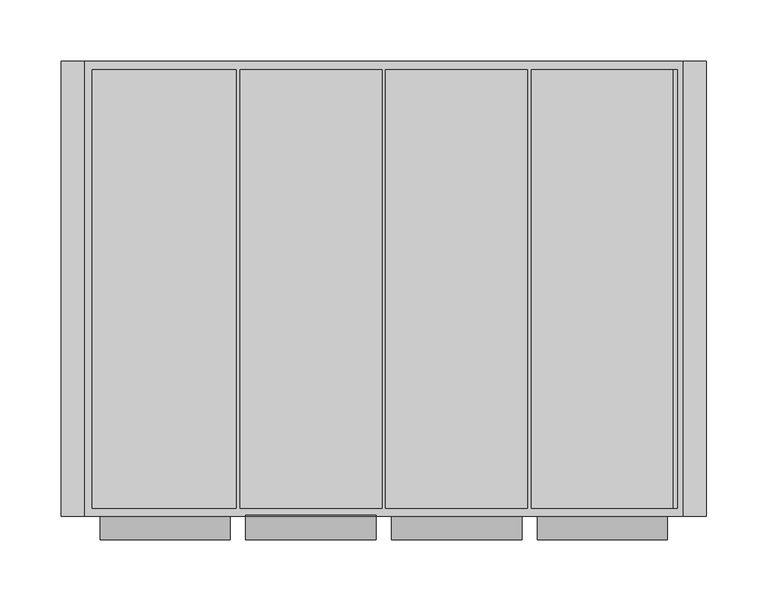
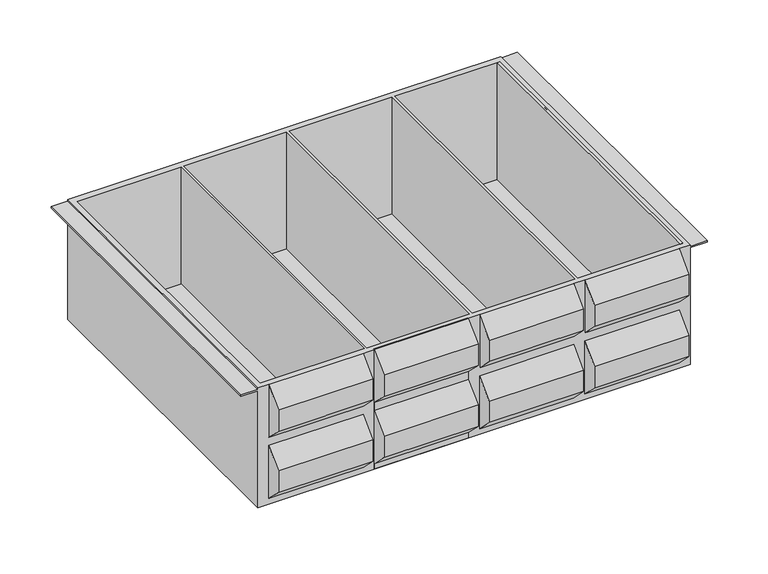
"""IFC4 building model written with IfcOpenShell, lengths in millimetres: furniture geometry."""

import ifcopenshell
import ifcopenshell.guid

model = None  # the IFC model being written
_history = None  # IfcOwnerHistory: only IFC2X3 demands one
_inside = {}  # id of a spatial element -> (the spatial element, [elements in it])
_under = {}  # id of a project, library or spatial element -> (it, [spatial elements below it])
_declared = {}  # id of a project -> (the project, [libraries it declares])
_typed = {}  # id of a type object -> (the type object, [elements of that type])
_made_of = {}  # id of a material, layer set ... -> (it, [elements and type objects made of it])


def new_model(schema):
    """Start an empty IFC model of exactly this schema.

    Asked for "IFC4X3", IfcOpenShell would pick the latest addendum, in which some entities
    have other attributes; the version numbers below select the first issue.
    IFC2X3 requires an IfcOwnerHistory on every rooted entity: one is made here for all.
    """
    global model, _history
    if schema == "IFC4X3":
        model = ifcopenshell.file(schema_version=(4, 3, 0, 0))
    else:
        model = ifcopenshell.file(schema=schema)
    _inside.clear()
    _under.clear()
    _declared.clear()
    _typed.clear()
    _made_of.clear()
    _history = None
    if model.schema == "IFC2X3":
        org = make("IfcOrganization", Name="unknown")
        user = make(
            "IfcPersonAndOrganization",
            ThePerson=make("IfcPerson", FamilyName="unknown"),
            TheOrganization=org,
        )
        app = make(
            "IfcApplication",
            ApplicationDeveloper=org,
            Version="unknown",
            ApplicationFullName="unknown",
            ApplicationIdentifier="unknown",
        )
        _history = make(
            "IfcOwnerHistory",
            OwningUser=user,
            OwningApplication=app,
            ChangeAction="ADDED",
            CreationDate=0,
        )
    return model


def make(cls, **values):
    """One entity of the class cls with the attributes given. An attribute that is None is left unset."""
    return model.create_entity(
        cls, **{name: value for name, value in values.items() if value is not None}
    )


def rooted(cls, **values):
    """An entity with a GlobalId (a new one), such as an element, a storey or a relation."""
    return make(cls, GlobalId=ifcopenshell.guid.new(), OwnerHistory=_history, **values)


def si_unit(unit_type, name, prefix=None):
    """IfcSIUnit, for example si_unit("LENGTHUNIT", "METRE", prefix="MILLI")."""
    return make("IfcSIUnit", UnitType=unit_type, Prefix=prefix, Name=name)


def assignment(units):
    """IfcUnitAssignment: the units of a project."""
    return None if units is None else make("IfcUnitAssignment", Units=units)


def point(xyz):
    """IfcCartesianPoint."""
    return None if xyz is None else make("IfcCartesianPoint", Coordinates=xyz)


def direction(xyz):
    """IfcDirection."""
    return None if xyz is None else make("IfcDirection", DirectionRatios=xyz)


def frame(location, z_axis=None, x_axis=None):
    """IfcAxis2Placement3D, a coordinate frame: its origin and axes. An axis left out is left unset."""
    return make(
        "IfcAxis2Placement3D",
        Location=point(location),
        Axis=direction(z_axis),
        RefDirection=direction(x_axis),
    )


def origin():
    """The frame at (0, 0, 0) with its axes left unset."""
    return frame((0.0, 0.0, 0.0))


def place(relative_to, where):
    """IfcLocalPlacement: puts the frame where relative to a parent placement (None: the world)."""
    return make(
        "IfcLocalPlacement", PlacementRelTo=relative_to, RelativePlacement=where
    )


def context(
    kind, dimensions, precision=None, world=None, true_north=None, identifier=None
):
    """IfcGeometricRepresentationContext, for example the 3D "Model" context."""
    return make(
        "IfcGeometricRepresentationContext",
        ContextIdentifier=identifier,
        ContextType=kind,
        CoordinateSpaceDimension=dimensions,
        Precision=precision,
        WorldCoordinateSystem=world,
        TrueNorth=true_north,
    )


def project(units=None, contexts=None):
    """IfcProject with its units and contexts."""
    return rooted(
        "IfcProject",
        Name="project",
        RepresentationContexts=contexts,
        UnitsInContext=assignment(units),
    )


def spatial(cls, under=None, at=None, **own):
    """A site, building, storey or space (cls), placed at a placement, below another one or the project."""
    s = rooted(cls, ObjectPlacement=at, **own)
    if under is not None:
        _under.setdefault(under.id(), (under, []))[1].append(s)
    return s


def polyline(points):
    """IfcPolyline through the points."""
    return make("IfcPolyline", Points=[point(p) for p in points])


def outline(outer, holes=None, kind="AREA"):
    """IfcArbitraryClosedProfileDef: a profile drawn as a closed curve; with holes, ...WithVoids."""
    if holes is None:
        return make("IfcArbitraryClosedProfileDef", ProfileType=kind, OuterCurve=outer)
    return make(
        "IfcArbitraryProfileDefWithVoids",
        ProfileType=kind,
        OuterCurve=outer,
        InnerCurves=holes,
    )


def extrude(swept, where, along, depth):
    """IfcExtrudedAreaSolid: the profile swept, set in the frame where, extruded along a direction by depth."""
    return make(
        "IfcExtrudedAreaSolid",
        SweptArea=swept,
        Position=where,
        ExtrudedDirection=direction(along),
        Depth=depth,
    )


def faces_of(points, faces, orient=None, outer=None):
    """IfcFace entities. A face is a list of loops; a loop is a list of indices into points, from 0.

    orient and outer hold one flag for each loop. By default every Orientation is true, the
    first loop of a face is its IfcFaceOuterBound and the others are IfcFaceBound.
    """
    made = []
    for i, loops in enumerate(faces):
        bounds = []
        for j, loop in enumerate(loops):
            is_outer = j == 0 if outer is None else outer[i][j]
            bounds.append(
                make(
                    "IfcFaceOuterBound" if is_outer else "IfcFaceBound",
                    Bound=make("IfcPolyLoop", Polygon=[points[k] for k in loop]),
                    Orientation=True if orient is None else orient[i][j],
                )
            )
        made.append(make("IfcFace", Bounds=bounds))
    return made


def faceted_brep(points, faces, orient=None, outer=None, voids=None):
    """IfcFacetedBrep: a solid bounded by flat faces; with voids (closed shells), ...WithVoids."""
    shared = [point(p) for p in points]
    hull = make("IfcClosedShell", CfsFaces=faces_of(shared, faces, orient, outer))
    if voids is None:
        return make("IfcFacetedBrep", Outer=hull)
    return make(
        "IfcFacetedBrepWithVoids",
        Outer=hull,
        Voids=[
            make(cls, CfsFaces=faces_of(shared, fs, o, b)) for cls, fs, o, b in voids
        ],
    )


def shape(context_of_items, identifier, shape_type, items):
    """IfcShapeRepresentation: the items that make up one representation, for example the "Body"."""
    return make(
        "IfcShapeRepresentation",
        ContextOfItems=context_of_items,
        RepresentationIdentifier=identifier,
        RepresentationType=shape_type,
        Items=items,
    )


def source(mapping_origin, context_of_items, identifier, shape_type, items):
    """IfcRepresentationMap: a shape defined once, which mapped items show again and again."""
    return make(
        "IfcRepresentationMap",
        MappingOrigin=mapping_origin,
        MappedRepresentation=shape(context_of_items, identifier, shape_type, items),
    )


def transform(
    local_origin,
    x_axis=None,
    y_axis=None,
    z_axis=None,
    scale=None,
    scale2=None,
    scale3=None,
    uniform=True,
):
    """IfcCartesianTransformationOperator3D, or its non-uniform kind. x_axis, y_axis, z_axis: its Axis1, 2, 3."""
    if uniform:
        return make(
            "IfcCartesianTransformationOperator3D",
            Axis1=direction(x_axis),
            Axis2=direction(y_axis),
            LocalOrigin=point(local_origin),
            Scale=scale,
            Axis3=direction(z_axis),
        )
    return make(
        "IfcCartesianTransformationOperator3DnonUniform",
        Axis1=direction(x_axis),
        Axis2=direction(y_axis),
        LocalOrigin=point(local_origin),
        Scale=scale,
        Axis3=direction(z_axis),
        Scale2=scale2,
        Scale3=scale3,
    )


def mapped(mapping_source, mapping_target):
    """IfcMappedItem: shows the shape of a source again, moved by a transform."""
    return make(
        "IfcMappedItem", MappingSource=mapping_source, MappingTarget=mapping_target
    )


def made_of(thing, what):
    """Note that an element or type object is made of a material, layer set ...; save() writes the relation."""
    if what is not None:
        _made_of.setdefault(what.id(), (what, []))[1].append(thing)
    return thing


def element(
    cls,
    number,
    at=None,
    inside=None,
    cuts=None,
    type_object=None,
    material=None,
    context=None,
    identifier="Body",
    shape_type=None,
    held_by="IfcProductDefinitionShape",
    body=None,
    shapes=None,
    **own,
):
    """One element of the class cls, such as IfcWall. Its Tag is "e" and its number.

    at: its placement. inside: the storey or other place that contains it. cuts: it is an
    opening in that element (IfcRelVoidsElement). A single representation is given by context,
    identifier, shape_type and body (its items); several are given by shapes. held_by: the class
    of the entity that holds the representations. save() writes the other relations.
    """
    e = rooted(cls, Tag="e%d" % number, ObjectPlacement=at, **own)
    if body is not None:
        shapes = [shape(context, identifier, shape_type, body)]
    if shapes is not None:
        e.Representation = make(held_by, Representations=shapes)
    if inside is not None:
        _inside.setdefault(inside.id(), (inside, []))[1].append(e)
    if cuts is not None:
        rooted(
            "IfcRelVoidsElement", RelatingBuildingElement=cuts, RelatedOpeningElement=e
        )
    if type_object is not None:
        _typed.setdefault(type_object.id(), (type_object, []))[1].append(e)
    return made_of(e, material)


def aggregate(whole, parts):
    """IfcRelAggregates: a whole, such as a stair, and the parts it consists of."""
    return rooted("IfcRelAggregates", RelatingObject=whole, RelatedObjects=parts)


def save(model, path):
    """Write the relations noted so far, then the file.

    IfcRelAggregates (storeys below a building ...), IfcRelContainedInSpatialStructure (elements
    in a storey), IfcRelDefinesByType, IfcRelAssociatesMaterial and IfcRelDeclares: one each for
    every whole, place, type object, material and project.
    """
    for whole, parts in _under.values():
        aggregate(whole, parts)
    for where, things in _inside.values():
        rooted(
            "IfcRelContainedInSpatialStructure",
            RelatedElements=things,
            RelatingStructure=where,
        )
    for kind, things in _typed.values():
        rooted("IfcRelDefinesByType", RelatedObjects=things, RelatingType=kind)
    for what, things in _made_of.values():
        rooted("IfcRelAssociatesMaterial", RelatedObjects=things, RelatingMaterial=what)
    for by, libraries in _declared.values():
        rooted("IfcRelDeclares", RelatingContext=by, RelatedDefinitions=libraries)
    model.write(path)


def furniture_3d7ec7b2(model_context):
    return source(origin(), model_context, "Body", "SolidModel", [
        extrude(outline(polyline([(-188.9125, 509.5964277), (-169.8625, 528.6527777), (-169.8625, 538.1777731), (-188.9125, 557.2214231), (-188.9125, 582.621425), (-169.8498034, 601.6841216), (-169.06875, 601.6841216), (-169.06875, 458.8091216), (-169.8625, 458.8091216), (-169.8625, 465.1591246), (-188.9125, 484.1964246), (-188.9125, 509.5964277)])), frame((-119.0625, 0.0, 0.0), z_axis=(1.0, 0.0, 0.0), x_axis=(0.0, 1.0, 0.0)), (0.0, 0.0, 1.0), 106.3625),
        extrude(outline(polyline([(233.3752, 194.6275), (233.3752, -163.5125), (230.2002, -163.5125), (230.2002, 194.6275), (233.3752, 194.6275)])), frame((0.0, 0.0, 461.8352935), z_axis=(0.0, 0.0, 1.0), x_axis=(1.0, 0.0, 0.0)), (0.0, 0.0, 1.0), 139.8488281),
        faceted_brep([(-238.125, -169.8625, 601.6841216), (-250.825, -169.8625, 601.6841216), (-250.825, -169.8625, 600.0839246), (-269.875, -169.8625, 600.0839246), (-269.875, -169.8625, 598.4964246), (-250.825, -169.8625, 598.4964246), (-250.825, -169.8625, 458.8091216), (238.125, -169.8625, 458.8091216), (238.125, -169.8625, 598.4964246), (257.175, -169.8625, 598.4964246), (257.175, -169.8625, 600.0839246), (238.125, -169.8625, 600.0839246), (238.125, -169.8625, 601.6841216), (225.4377, -169.8625, 601.6841216), (225.4377, -169.8625, 538.177773), (119.0625, -169.8625, 538.177773), (119.0625, -169.8625, 601.6841216), (106.3625, -169.8625, 601.6841216), (106.3625, -169.8625, 538.1777731), (0.0, -169.8625, 538.1777731), (0.0, -169.8625, 601.6841216), (-131.7625, -169.8625, 601.6841216), (-131.7625, -169.8625, 538.1777731), (-238.125, -169.8625, 538.1777731), (-131.7625, -169.8625, 528.6527777), (-131.7625, -169.8625, 465.1591246), (-238.125, -169.8625, 465.1591246), (-238.125, -169.8625, 528.6527777), (106.3625, -169.8625, 528.6527776), (106.3625, -169.8625, 465.1591246), (0.0, -169.8625, 465.1591246), (0.0, -169.8625, 528.6527776), (119.0625, -169.8625, 465.1591245), (119.0625, -169.8625, 528.6527775), (225.4377, -169.8625, 528.6527775), (225.4377, -169.8625, 465.1591245), (-250.825, 201.6125, 601.6841216), (238.125, 201.6125, 601.6841216), (238.125, 201.6125, 600.0839246), (257.175, 201.6125, 600.0839246), (257.175, 201.6125, 598.4964246), (238.125, 201.6125, 598.4964246), (238.125, 201.6125, 458.8091216), (-250.825, 201.6125, 458.8091216), (-250.825, 201.6125, 598.4964246), (-269.875, 201.6125, 598.4964246), (-269.875, 201.6125, 600.0839246), (-250.825, 201.6125, 600.0839246), (-244.475, 194.6275, 601.6841216), (-127.0, 194.6275, 601.6841216), (-127.0, -163.5125, 601.6841216), (-244.475, -163.5125, 601.6841216), (-7.9375, -163.5125, 601.6841216), (-123.825, -163.5125, 601.6841216), (-123.825, 194.6275, 601.6841216), (-7.9375, 194.6275, 601.6841216), (111.125, -163.5125, 601.6841216), (-4.7625, -163.5125, 601.6841216), (-4.7625, 194.6275, 601.6841216), (111.125, 194.6275, 601.6841216), (231.775, 194.6275, 601.6841216), (231.775, -163.5125, 601.6841216), (114.3, -163.5125, 601.6841216), (114.3, 194.6275, 601.6841216), (-131.7625, -188.9125, 509.5964277), (-131.7625, -188.9125, 484.1964246), (-131.7625, -188.9125, 582.621425), (-131.7625, -188.9125, 557.2214231), (-238.125, -188.9125, 509.5964277), (-238.125, -188.9125, 484.1964246), (-238.125, -188.9125, 557.2214231), (-238.125, -188.9125, 582.621425), (231.775, -163.5125, 461.8352935), (231.775, 194.6275, 461.8352935), (114.3, 194.6275, 461.8352935), (114.3, -163.5125, 461.8352935), (-244.475, 194.6275, 461.8352935), (-244.475, -163.5125, 461.8352935), (-127.0, -163.5125, 461.8352935), (-127.0, 194.6275, 461.8352935), (-4.7625, -163.5125, 461.8352935), (111.125, -163.5125, 461.8352935), (111.125, 194.6275, 461.8352935), (-4.7625, 194.6275, 461.8352935), (-123.825, -163.5125, 461.8352935), (-7.9375, -163.5125, 461.8352935), (-7.9375, 194.6275, 461.8352935), (-123.825, 194.6275, 461.8352935), (106.3625, -188.9125, 509.5964277), (106.3625, -188.9125, 484.1964246), (106.3625, -188.9125, 582.621425), (106.3625, -188.9125, 557.2214231), (0.0, -188.9125, 509.5964277), (0.0, -188.9125, 484.1964246), (0.0, -188.9125, 557.2214231), (0.0, -188.9125, 582.621425), (119.0625, -188.9125, 509.5964277), (119.0625, -188.9125, 484.1964246), (119.0625, -188.9125, 557.2214231), (119.0625, -188.9125, 582.621425), (225.4377, -188.9125, 509.5964277), (225.4377, -188.9125, 484.1964246), (225.4377, -188.9125, 582.621425), (225.4377, -188.9125, 557.2214231)], [[[0, 1, 2, 3, 4, 5, 6, 7, 8, 9, 10, 11, 12, 13, 14, 15, 16, 17, 18, 19, 20, 21, 22, 23], [24, 25, 26, 27], [28, 29, 30, 31], [32, 33, 34, 35]], [[36, 37, 38, 39, 40, 41, 42, 43, 44, 45, 46, 47]], [[43, 42, 7, 6]], [[7, 42, 41, 8]], [[37, 12, 11, 38]], [[37, 36, 1, 0, 21, 20, 17, 16, 13, 12], [48, 49, 50, 51], [52, 53, 54, 55], [56, 57, 58, 59], [60, 61, 62, 63]], [[43, 6, 5, 44]], [[1, 36, 47, 2]], [[64, 65, 25, 24]], [[21, 66, 67, 22]], [[68, 27, 26, 69]], [[23, 70, 71, 0]], [[65, 64, 68, 69]], [[25, 65, 69, 26]], [[66, 21, 0, 71]], [[67, 66, 71, 70]], [[22, 67, 70, 23]], [[64, 24, 27, 68]], [[72, 73, 74, 75]], [[76, 77, 78, 79]], [[80, 81, 82, 83]], [[84, 85, 86, 87]], [[53, 52, 85, 84]], [[57, 56, 81, 80]], [[61, 72, 75, 62]], [[77, 51, 50, 78]], [[73, 72, 61, 60]], [[55, 54, 87, 86]], [[59, 58, 83, 82]], [[73, 60, 63, 74]], [[48, 76, 79, 49]], [[77, 76, 48, 51]], [[88, 89, 29, 28]], [[17, 90, 91, 18]], [[92, 31, 30, 93]], [[19, 94, 95, 20]], [[89, 88, 92, 93]], [[29, 89, 93, 30]], [[90, 17, 20, 95]], [[91, 90, 95, 94]], [[18, 91, 94, 19]], [[88, 28, 31, 92]], [[96, 33, 32, 97]], [[15, 98, 99, 16]], [[100, 101, 35, 34]], [[13, 102, 103, 14]], [[33, 96, 100, 34]], [[98, 15, 14, 103]], [[99, 98, 103, 102]], [[16, 99, 102, 13]], [[97, 32, 35, 101]], [[96, 97, 101, 100]], [[46, 45, 4, 3]], [[47, 46, 3, 2]], [[45, 44, 5, 4]], [[41, 40, 9, 8]], [[39, 38, 11, 10]], [[40, 39, 10, 9]], [[54, 53, 84, 87]], [[50, 49, 79, 78]], [[63, 62, 75, 74]], [[56, 59, 82, 81]], [[58, 57, 80, 83]], [[52, 55, 86, 85]]]),
    ])


if __name__ == "__main__":
    model = new_model("IFC4")
    model_context = context("Model", 3, world=origin())
    ifc_project = project(units=[si_unit("LENGTHUNIT", "METRE", prefix="MILLI")], contexts=[model_context])
    site = spatial("IfcSite", under=ifc_project)
    building = spatial("IfcBuilding", under=site)
    placement = place(None, origin())
    furniture_shape = furniture_3d7ec7b2(model_context)
    element("IfcFurniture", 1, ObjectType="HermanMiller_Carts_CT542_Cassette : 6\"H x 15\"D x 20\"W Bin", at=placement, inside=building, context=model_context, shape_type="MappedRepresentation", body=[
        mapped(furniture_shape, transform((0.0, 0.0, 0.0), x_axis=(1.0, 0.0, 0.0), y_axis=(0.0, 1.0, 0.0), z_axis=(0.0, 0.0, 1.0))),
    ])
    save(model, "model.ifc")
